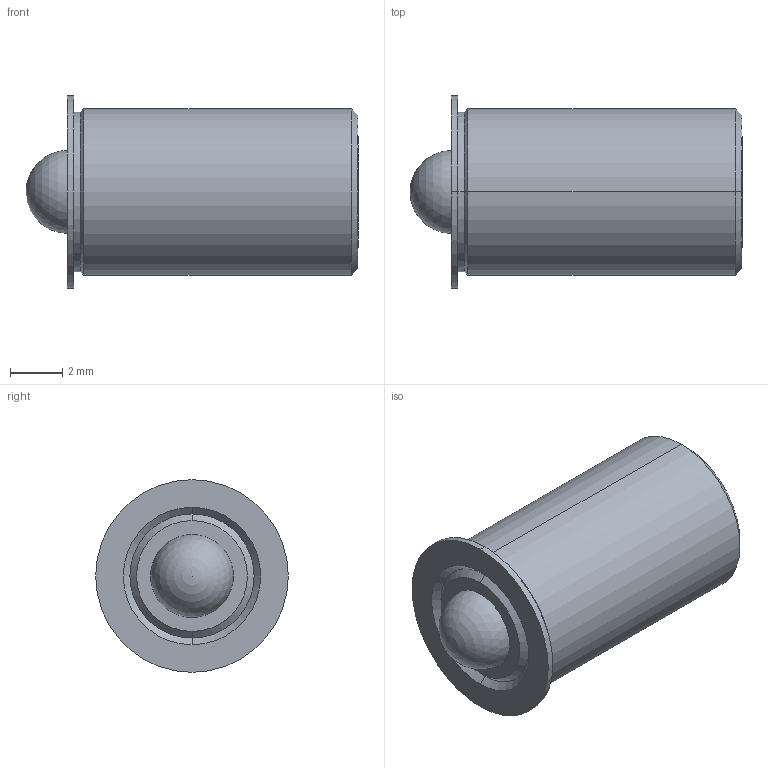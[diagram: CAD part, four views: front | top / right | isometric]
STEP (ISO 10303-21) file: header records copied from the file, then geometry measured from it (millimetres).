
FILE_DESCRIPTION (( 'STEP AP214' ), '1' );
FILE_NAME ('TSB187-100-500_437.STEP', '2013-03-13T13:12:56', ( 'workpc' ), ( 'Microsoft' ), 'SwSTEP 2.0', 'SolidWorks 2013', '' );
FILE_SCHEMA (( 'AUTOMOTIVE_DESIGN' ));
Length unit declared in the file: inch
Products named in the file (1): TSB187-100-500_437
Bounding box: 12.7 x 7.37 x 7.37 mm (x, y, z)
Surface area: 667.6 mm2 (no closed solid volume)
Topology: 0 solids, 3 shells, 35 faces, 79 edges, 49 vertices
Faces by surface type: cone 12, plane 11, cylinder 10, sphere 2
Entity records: 1418 total; most frequent: DIRECTION 180, CARTESIAN_POINT 156, ORIENTED_EDGE 140, EDGE_CURVE 74, AXIS2_PLACEMENT_3D 70, VERTEX_POINT 46, VECTOR 40, LINE 40
